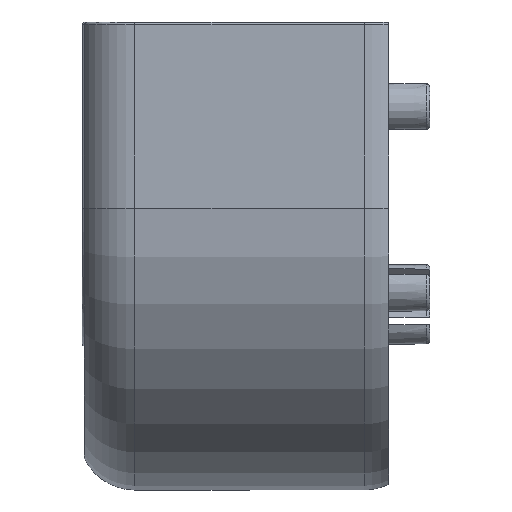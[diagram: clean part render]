
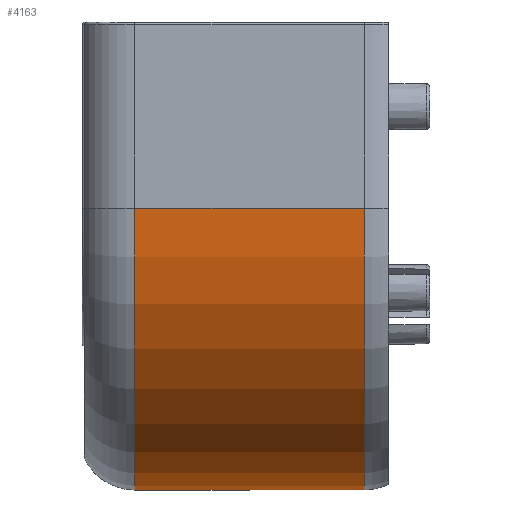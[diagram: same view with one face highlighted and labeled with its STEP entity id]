
A CAD part, left-side view. The second image highlights one B-rep face of the part: STEP entity #4163.
In plain terms, the highlighted cylindrical face has radius 15 mm (diameter 30 mm), a partial arc.
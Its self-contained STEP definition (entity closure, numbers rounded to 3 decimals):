
#99 = VERTEX_POINT ( 'NONE', #5156 ) ;
#356 = CARTESIAN_POINT ( 'NONE',  ( 2.5, 0.7, -11. ) ) ;
#423 = CARTESIAN_POINT ( 'NONE',  ( 2.5, -2.94, -26. ) ) ;
#460 = DIRECTION ( 'NONE',  ( 0., 1., 0. ) ) ;
#596 = DIRECTION ( 'NONE',  ( 0., 0., -1. ) ) ;
#772 = CARTESIAN_POINT ( 'NONE',  ( -12.5, -2.94, -11. ) ) ;
#1414 = EDGE_CURVE ( 'NONE', #99, #5616, #3684, .T. ) ;
#1468 = EDGE_CURVE ( 'NONE', #2156, #99, #3393, .T. ) ;
#1622 = VERTEX_POINT ( 'NONE', #2799 ) ;
#1761 = DIRECTION ( 'NONE',  ( 0., 1., 0. ) ) ;
#1797 = LINE ( 'NONE', #423, #5418 ) ;
#2156 = VERTEX_POINT ( 'NONE', #5062 ) ;
#2197 = AXIS2_PLACEMENT_3D ( 'NONE', #3511, #3954, #5300 ) ;
#2222 = FACE_OUTER_BOUND ( 'NONE', #4366, .T. ) ;
#2268 = ORIENTED_EDGE ( 'NONE', *, *, #5131, .F. ) ;
#2799 = CARTESIAN_POINT ( 'NONE',  ( 2.5, 10.94, -26. ) ) ;
#2835 = CARTESIAN_POINT ( 'NONE',  ( 2.5, 10.94, -11. ) ) ;
#2952 = CARTESIAN_POINT ( 'NONE',  ( -12.5, 10.94, -11. ) ) ;
#3153 = AXIS2_PLACEMENT_3D ( 'NONE', #2835, #3286, #596 ) ;
#3267 = CYLINDRICAL_SURFACE ( 'NONE', #4611, 15. ) ;
#3286 = DIRECTION ( 'NONE',  ( 0., 1., 0. ) ) ;
#3393 = CIRCLE ( 'NONE', #2197, 15. ) ;
#3511 = CARTESIAN_POINT ( 'NONE',  ( 2.5, -1.25, -11. ) ) ;
#3684 = LINE ( 'NONE', #772, #4281 ) ;
#3789 = EDGE_CURVE ( 'NONE', #2156, #1622, #1797, .T. ) ;
#3954 = DIRECTION ( 'NONE',  ( 0., 1., 0. ) ) ;
#4055 = ORIENTED_EDGE ( 'NONE', *, *, #3789, .F. ) ;
#4163 = ADVANCED_FACE ( 'NONE', ( #2222 ), #3267, .T. ) ;
#4281 = VECTOR ( 'NONE', #1761, 1000. ) ;
#4366 = EDGE_LOOP ( 'NONE', ( #2268, #4055, #5686, #5275 ) ) ;
#4377 = DIRECTION ( 'NONE',  ( 0., 1., 0. ) ) ;
#4611 = AXIS2_PLACEMENT_3D ( 'NONE', #356, #4377, #5723 ) ;
#5062 = CARTESIAN_POINT ( 'NONE',  ( 2.5, -1.25, -26. ) ) ;
#5131 = EDGE_CURVE ( 'NONE', #1622, #5616, #5550, .T. ) ;
#5156 = CARTESIAN_POINT ( 'NONE',  ( -12.5, -1.25, -11. ) ) ;
#5275 = ORIENTED_EDGE ( 'NONE', *, *, #1414, .T. ) ;
#5300 = DIRECTION ( 'NONE',  ( 0., 0., -1. ) ) ;
#5418 = VECTOR ( 'NONE', #460, 1000. ) ;
#5550 = CIRCLE ( 'NONE', #3153, 15. ) ;
#5616 = VERTEX_POINT ( 'NONE', #2952 ) ;
#5686 = ORIENTED_EDGE ( 'NONE', *, *, #1468, .T. ) ;
#5723 = DIRECTION ( 'NONE',  ( 0., 0., 1. ) ) ;
